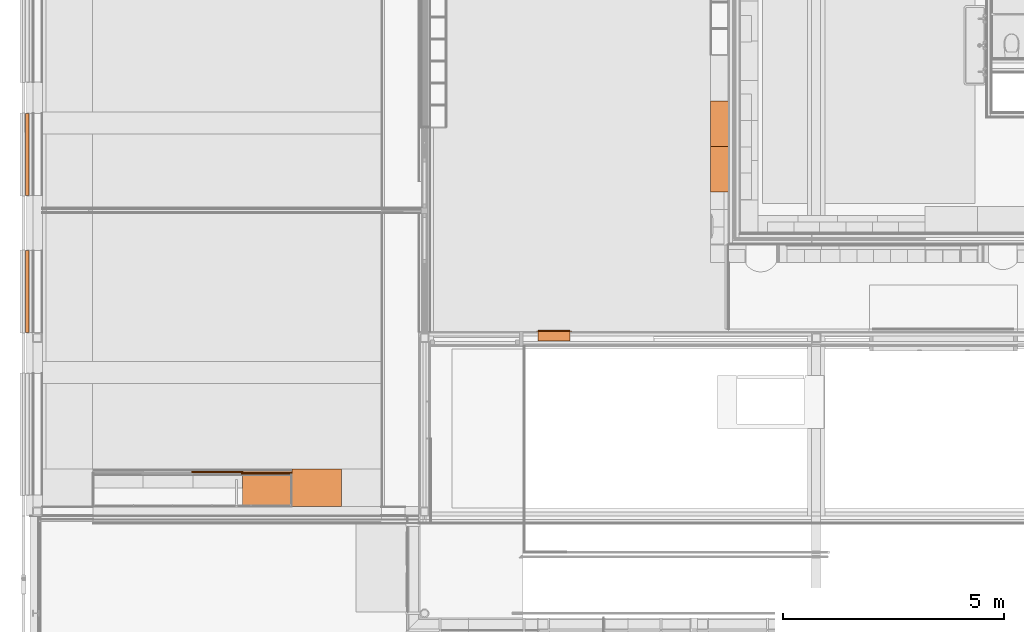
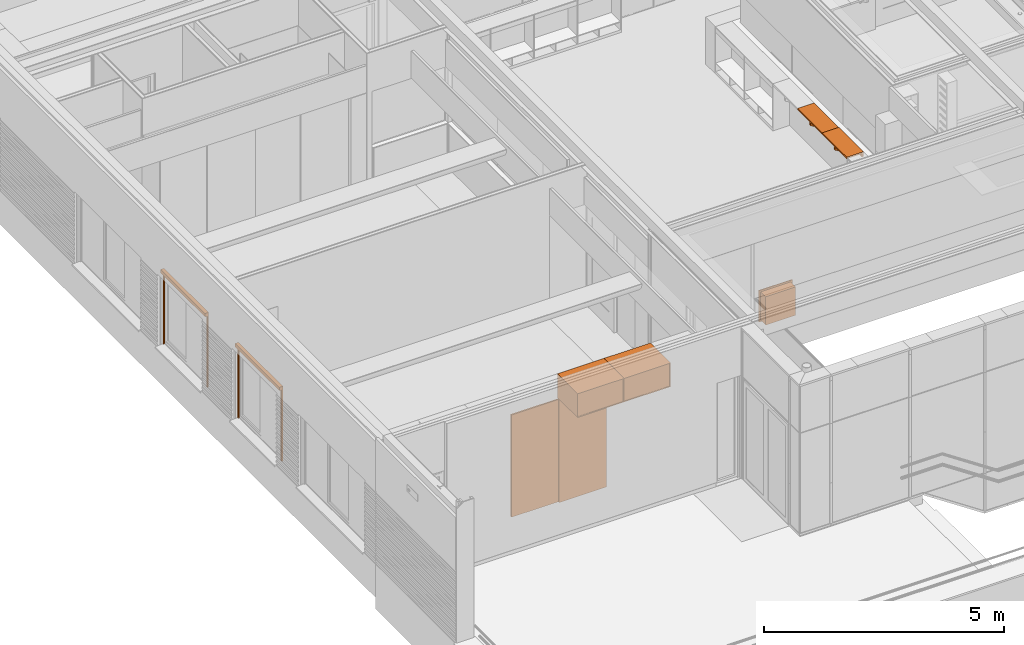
# One storey, part 115 of 137: 9 proxies.
"""IFC2X3 building model written with IfcOpenShell, lengths in millimetres."""

from ifc_helpers import new_model, entity, si_unit, converted_unit, derived_unit, money_unit, direction, frame, origin_with_axes, place, context, subcontext, project, spatial, open_shell, faceted_brep, surface_model, source, transform, mapped, type_object, type_shapes, element, save


model = new_model("IFC2X3")

# Units and contexts
model_context = context("Model", 3, precision=0.01, world=origin_with_axes(), true_north=direction((0.0, 1.0)))
body_context = subcontext(model_context, "Body", "Model", "MODEL_VIEW")
ifc_project = project(units=[si_unit("LENGTHUNIT", "METRE", prefix="MILLI"), si_unit("AREAUNIT", "SQUARE_METRE"), si_unit("VOLUMEUNIT", "CUBIC_METRE"), converted_unit("PLANEANGLEUNIT", "DEGREE", entity("IfcPlaneAngleMeasure", 0.0174532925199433), si_unit("PLANEANGLEUNIT", "RADIAN"), dimensions=[0, 0, 0, 0, 0, 0, 0]), money_unit("EUR"), converted_unit("TIMEUNIT", "Year", entity("IfcTimeMeasure", 31556926.0), si_unit("TIMEUNIT", "SECOND"), dimensions=[0, 0, 1, 0, 0, 0, 0]), si_unit("MASSUNIT", "GRAM", prefix="KILO"), si_unit("THERMODYNAMICTEMPERATUREUNIT", "DEGREE_CELSIUS"), si_unit("LUMINOUSINTENSITYUNIT", "LUMEN"), si_unit("ENERGYUNIT", "JOULE", prefix="MEGA"), derived_unit("THERMALCONDUCTANCEUNIT", [(si_unit("POWERUNIT", "WATT"), 1), (si_unit("LENGTHUNIT", "METRE"), -1), (si_unit("THERMODYNAMICTEMPERATUREUNIT", "KELVIN"), -1)]), derived_unit("SPECIFICHEATCAPACITYUNIT", [(si_unit("ENERGYUNIT", "JOULE"), 1), (si_unit("MASSUNIT", "GRAM", prefix="KILO"), -1), (si_unit("THERMODYNAMICTEMPERATUREUNIT", "KELVIN"), -1)]), derived_unit("MASSDENSITYUNIT", [(si_unit("MASSUNIT", "GRAM", prefix="KILO"), 1), (si_unit("VOLUMEUNIT", "CUBIC_METRE"), -1)])], contexts=[model_context])

# Site, building, storey
site_placement = place(None, origin_with_axes())
site = spatial("IfcSite", under=ifc_project, at=site_placement, Name="Site", CompositionType="ELEMENT")
building_placement = place(site_placement, origin_with_axes())
building = spatial("IfcBuilding", under=site, at=building_placement, Name="Naam gebouw", CompositionType="ELEMENT")
storey_placement = place(building_placement, frame((0.0, 0.0, 3960.0), z_axis=(0.0, 0.0, 1.0), x_axis=(1.0, 0.0, 0.0)))
storey = spatial("IfcBuildingStorey", under=building, at=storey_placement, Name="1e verdieping", CompositionType="ELEMENT", Elevation=3960.0)

# Proxies
building_element_proxy_type_1 = type_object("IfcBuildingElementProxyType", Name="Brandslang haspelkast 26", PredefinedType="NOTDEFINED")
shared_shape_1 = source(origin_with_axes(), body_context, "Body", "Brep", [
    faceted_brep([(0.0, 40.00000000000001, 0.0), (0.0, 20.00000000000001, 0.0), (-800.0, 20.00000000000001, 0.0), (-800.0, 40.00000000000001, 0.0), (0.0, 40.00000000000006, 800.0), (0.0, 20.00000000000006, 800.0), (-800.0, 20.00000000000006, 800.0), (-60.0, 20.00000000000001, 60.00000000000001), (-740.0, 20.00000000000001, 60.00000000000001), (-740.0, 20.00000000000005, 740.0), (-60.0, 20.00000000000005, 740.0), (-800.0, 40.00000000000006, 800.0), (-60.0, 40.00000000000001, 60.00000000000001), (-60.0, 40.00000000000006, 740.0), (-740.0, 40.00000000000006, 740.0), (-740.0, 40.00000000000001, 60.00000000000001)], [[[0, 1, 2, 3]], [[4, 5, 1, 0]], [[1, 5, 6, 2], [7, 8, 9, 10]], [[3, 2, 6, 11]], [[0, 3, 11, 4], [12, 13, 14, 15]], [[11, 6, 5, 4]], [[15, 8, 7, 12]], [[14, 9, 8, 15]], [[13, 10, 9, 14]], [[12, 7, 10, 13]]]),
    faceted_brep([(-39.99999999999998, 20.00000000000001, 40.00000000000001), (-39.99999999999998, 0.0, 40.00000000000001), (-760.0, 0.0, 40.00000000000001), (-760.0, 20.00000000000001, 40.00000000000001), (-39.99999999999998, 20.00000000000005, 760.0), (-39.99999999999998, 0.0, 760.0), (-760.0, 0.0, 760.0), (-80.00000000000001, 0.0, 80.0), (-720.0, 0.0, 80.0), (-720.0, 0.0, 720.0000000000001), (-80.00000000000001, 0.0, 720.0000000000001), (-760.0, 20.00000000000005, 760.0), (-80.00000000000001, 20.00000000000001, 80.0), (-80.00000000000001, 20.00000000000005, 720.0000000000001), (-720.0, 20.00000000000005, 720.0000000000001), (-720.0, 20.00000000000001, 80.0)], [[[0, 1, 2, 3]], [[4, 5, 1, 0]], [[1, 5, 6, 2], [7, 8, 9, 10]], [[3, 2, 6, 11]], [[0, 3, 11, 4], [12, 13, 14, 15]], [[11, 6, 5, 4]], [[15, 8, 7, 12]], [[14, 9, 8, 15]], [[13, 10, 9, 14]], [[12, 7, 10, 13]]]),
    faceted_brep([(-39.99999999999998, 230.0, 39.99999999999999), (-39.99999999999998, 39.99999999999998, 40.00000000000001), (-760.0, 39.99999999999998, 40.00000000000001), (-760.0, 230.0, 39.99999999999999), (-39.99999999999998, 230.0, 760.0), (-39.99999999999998, 40.00000000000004, 760.0), (-760.0, 40.00000000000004, 760.0), (-60.0, 39.99999999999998, 60.00000000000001), (-740.0, 39.99999999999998, 60.00000000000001), (-740.0, 40.00000000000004, 740.0), (-60.0, 40.00000000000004, 740.0), (-760.0, 230.0, 760.0), (-60.0, 230.0, 59.99999999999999), (-60.0, 230.0, 740.0), (-740.0, 230.0, 740.0), (-740.0, 230.0, 59.99999999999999)], [[[0, 1, 2, 3]], [[4, 5, 1, 0]], [[1, 5, 6, 2], [7, 8, 9, 10]], [[3, 2, 6, 11]], [[0, 3, 11, 4], [12, 13, 14, 15]], [[11, 6, 5, 4]], [[15, 8, 7, 12]], [[14, 9, 8, 15]], [[13, 10, 9, 14]], [[12, 7, 10, 13]]]),
    faceted_brep([(-39.99999999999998, 250.0, 39.99999999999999), (-39.99999999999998, 230.0, 39.99999999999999), (-760.0, 230.0, 39.99999999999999), (-760.0, 250.0, 39.99999999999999), (-39.99999999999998, 250.0000000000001, 760.0), (-39.99999999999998, 230.0, 760.0), (-760.0, 230.0, 760.0), (-760.0, 250.0000000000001, 760.0)], [[[0, 1, 2, 3]], [[4, 5, 1, 0]], [[1, 5, 6, 2]], [[3, 2, 6, 7]], [[0, 3, 7, 4]], [[7, 6, 5, 4]]]),
    faceted_brep([(-80.00000000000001, 15.00000000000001, 80.0), (-80.00000000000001, 5.000000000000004, 80.0), (-720.0, 5.000000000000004, 80.0), (-720.0, 15.00000000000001, 80.0), (-80.00000000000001, 15.00000000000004, 720.0000000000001), (-80.00000000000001, 5.000000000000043, 720.0000000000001), (-720.0, 5.000000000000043, 720.0000000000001), (-720.0, 15.00000000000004, 720.0000000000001)], [[[0, 1, 2, 3]], [[4, 5, 1, 0]], [[1, 5, 6, 2]], [[3, 2, 6, 7]], [[0, 3, 7, 4]], [[7, 6, 5, 4]]]),
    faceted_brep([(-749.6592582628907, 0.0, 397.4118095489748), (-750.0, 0.0, 400.0), (-749.6592582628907, 0.0, 402.5881904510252), (-748.6602540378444, 0.0, 405.0), (-747.0710678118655, 0.0, 407.0710678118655), (-745.0, 0.0, 408.6602540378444), (-742.5881904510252, 0.0, 409.6592582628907), (-740.0, 0.0, 410.0000000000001), (-737.4118095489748, 0.0, 409.6592582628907), (-735.0, 0.0, 408.6602540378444), (-732.9289321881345, 0.0, 407.0710678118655), (-731.3397459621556, 0.0, 405.0), (-730.3407417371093, 0.0, 402.5881904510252), (-730.0, 0.0, 400.0), (-730.3407417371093, 0.0, 397.4118095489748), (-731.3397459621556, 0.0, 395.0), (-732.9289321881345, 0.0, 392.9289321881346), (-735.0, 0.0, 391.3397459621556), (-737.4118095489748, 0.0, 390.3407417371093), (-740.0, 0.0, 390.0), (-742.5881904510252, 0.0, 390.3407417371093), (-745.0, 0.0, 391.3397459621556), (-747.0710678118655, 0.0, 392.9289321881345), (-748.6602540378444, 0.0, 395.0), (-749.6592582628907, -1.999999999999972, 397.4118095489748), (-750.0, -1.999999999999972, 400.0), (-749.6592582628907, -1.999999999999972, 402.5881904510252), (-748.6602540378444, -1.999999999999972, 405.0), (-747.0710678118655, -1.999999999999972, 407.0710678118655), (-745.0, -1.999999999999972, 408.6602540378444), (-742.5881904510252, -1.999999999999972, 409.6592582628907), (-740.0, -1.999999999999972, 410.0000000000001), (-737.4118095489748, -1.999999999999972, 409.6592582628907), (-735.0, -1.999999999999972, 408.6602540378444), (-732.9289321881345, -1.999999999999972, 407.0710678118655), (-731.3397459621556, -1.999999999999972, 405.0), (-730.3407417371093, -1.999999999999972, 402.5881904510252), (-730.0, -1.999999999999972, 400.0), (-730.3407417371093, -1.999999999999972, 397.4118095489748), (-731.3397459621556, -1.999999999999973, 395.0), (-732.9289321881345, -1.999999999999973, 392.9289321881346), (-735.0, -1.999999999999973, 391.3397459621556), (-737.4118095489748, -1.999999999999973, 390.3407417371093), (-740.0, -1.999999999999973, 390.0), (-742.5881904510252, -1.999999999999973, 390.3407417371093), (-745.0, -1.999999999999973, 391.3397459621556), (-747.0710678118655, -1.999999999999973, 392.9289321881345), (-748.6602540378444, -1.999999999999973, 395.0)], [[[0, 1, 2, 3, 4, 5, 6, 7, 8, 9, 10, 11, 12, 13, 14, 15, 16, 17, 18, 19, 20, 21, 22, 23]], [[0, 24, 25, 1]], [[1, 25, 26, 2]], [[2, 26, 27, 3]], [[3, 27, 28, 4]], [[4, 28, 29, 5]], [[5, 29, 30, 6]], [[6, 30, 31, 7]], [[7, 31, 32, 8]], [[8, 32, 33, 9]], [[9, 33, 34, 10]], [[10, 34, 35, 11]], [[11, 35, 36, 12]], [[12, 36, 37, 13]], [[13, 37, 38, 14]], [[14, 38, 39, 15]], [[15, 39, 40, 16]], [[16, 40, 41, 17]], [[17, 41, 42, 18]], [[18, 42, 43, 19]], [[19, 43, 44, 20]], [[20, 44, 45, 21]], [[21, 45, 46, 22]], [[22, 46, 47, 23]], [[23, 47, 24, 0]], [[24, 47, 46, 45, 44, 43, 42, 41, 40, 39, 38, 37, 36, 35, 34, 33, 32, 31, 30, 29, 28, 27, 26, 25]]]),
    faceted_brep([(-39.89777747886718, 16.22354286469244, 80.0), (-39.99999999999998, 17.0, 80.0), (-39.89777747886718, 17.77645713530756, 80.0), (-39.59807621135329, 18.5, 80.0), (-39.12132034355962, 19.12132034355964, 80.0), (-38.49999999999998, 19.59807621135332, 80.0), (-37.77645713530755, 19.89777747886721, 80.0), (-36.99999999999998, 20.0, 80.0), (-36.22354286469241, 19.89777747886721, 80.0), (-35.49999999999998, 19.59807621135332, 80.0), (-34.87867965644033, 19.12132034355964, 80.0), (-34.40192378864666, 18.5, 80.0), (-34.10222252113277, 17.77645713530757, 80.0), (-33.99999999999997, 17.0, 80.0), (-34.10222252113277, 16.22354286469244, 80.0), (-34.40192378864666, 15.5, 80.0), (-34.87867965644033, 14.87867965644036, 80.0), (-35.49999999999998, 14.40192378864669, 80.0), (-36.22354286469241, 14.1022225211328, 80.0), (-36.99999999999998, 14.0, 80.0), (-37.77645713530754, 14.10222252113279, 80.0), (-38.49999999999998, 14.40192378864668, 80.0), (-39.12132034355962, 14.87867965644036, 80.0), (-39.59807621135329, 15.5, 80.0), (-39.89777747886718, 16.22354286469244, 120.0), (-39.99999999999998, 17.0, 120.0), (-39.89777747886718, 17.77645713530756, 120.0), (-39.59807621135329, 18.5, 120.0), (-39.12132034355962, 19.12132034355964, 120.0), (-38.49999999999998, 19.59807621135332, 120.0), (-37.77645713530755, 19.89777747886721, 120.0), (-36.99999999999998, 20.0, 120.0), (-36.22354286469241, 19.89777747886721, 120.0), (-35.49999999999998, 19.59807621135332, 120.0), (-34.87867965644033, 19.12132034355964, 120.0), (-34.40192378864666, 18.5, 120.0), (-34.10222252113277, 17.77645713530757, 120.0), (-33.99999999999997, 17.0, 120.0), (-34.10222252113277, 16.22354286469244, 120.0), (-34.40192378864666, 15.5, 120.0), (-34.87867965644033, 14.87867965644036, 120.0), (-35.49999999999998, 14.40192378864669, 120.0), (-36.22354286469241, 14.1022225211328, 120.0), (-36.99999999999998, 14.0, 120.0), (-37.77645713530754, 14.10222252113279, 120.0), (-38.49999999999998, 14.40192378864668, 120.0), (-39.12132034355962, 14.87867965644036, 120.0), (-39.59807621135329, 15.5, 120.0)], [[[0, 1, 2, 3, 4, 5, 6, 7, 8, 9, 10, 11, 12, 13, 14, 15, 16, 17, 18, 19, 20, 21, 22, 23]], [[0, 24, 25, 1]], [[1, 25, 26, 2]], [[2, 26, 27, 3]], [[3, 27, 28, 4]], [[4, 28, 29, 5]], [[5, 29, 30, 6]], [[6, 30, 31, 7]], [[7, 31, 32, 8]], [[8, 32, 33, 9]], [[9, 33, 34, 10]], [[10, 34, 35, 11]], [[11, 35, 36, 12]], [[12, 36, 37, 13]], [[13, 37, 38, 14]], [[14, 38, 39, 15]], [[15, 39, 40, 16]], [[16, 40, 41, 17]], [[17, 41, 42, 18]], [[18, 42, 43, 19]], [[19, 43, 44, 20]], [[20, 44, 45, 21]], [[21, 45, 46, 22]], [[22, 46, 47, 23]], [[23, 47, 24, 0]], [[24, 47, 46, 45, 44, 43, 42, 41, 40, 39, 38, 37, 36, 35, 34, 33, 32, 31, 30, 29, 28, 27, 26, 25]]]),
    faceted_brep([(-39.89777747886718, 16.22354286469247, 680.0), (-39.99999999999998, 17.00000000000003, 680.0), (-39.89777747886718, 17.77645713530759, 680.0), (-39.59807621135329, 18.50000000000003, 680.0), (-39.12132034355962, 19.12132034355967, 680.0), (-38.49999999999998, 19.59807621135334, 680.0), (-37.77645713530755, 19.89777747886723, 680.0), (-36.99999999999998, 20.00000000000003, 680.0), (-36.22354286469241, 19.89777747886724, 680.0), (-35.49999999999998, 19.59807621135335, 680.0), (-34.87867965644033, 19.12132034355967, 680.0), (-34.40192378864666, 18.50000000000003, 680.0), (-34.10222252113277, 17.7764571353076, 680.0), (-33.99999999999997, 17.00000000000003, 680.0), (-34.10222252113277, 16.22354286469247, 680.0), (-34.40192378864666, 15.50000000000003, 680.0), (-34.87867965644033, 14.87867965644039, 680.0), (-35.49999999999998, 14.40192378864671, 680.0), (-36.22354286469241, 14.10222252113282, 680.0), (-36.99999999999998, 14.00000000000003, 680.0), (-37.77645713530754, 14.10222252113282, 680.0), (-38.49999999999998, 14.40192378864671, 680.0), (-39.12132034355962, 14.87867965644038, 680.0), (-39.59807621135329, 15.50000000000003, 680.0), (-39.89777747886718, 16.22354286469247, 720.0000000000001), (-39.99999999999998, 17.00000000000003, 720.0000000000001), (-39.89777747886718, 17.77645713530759, 720.0000000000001), (-39.59807621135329, 18.50000000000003, 720.0000000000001), (-39.12132034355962, 19.12132034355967, 720.0000000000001), (-38.49999999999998, 19.59807621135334, 720.0000000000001), (-37.77645713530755, 19.89777747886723, 720.0000000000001), (-36.99999999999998, 20.00000000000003, 720.0000000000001), (-36.22354286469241, 19.89777747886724, 720.0000000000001), (-35.49999999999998, 19.59807621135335, 720.0000000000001), (-34.87867965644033, 19.12132034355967, 720.0000000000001), (-34.40192378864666, 18.50000000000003, 720.0000000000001), (-34.10222252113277, 17.7764571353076, 720.0000000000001), (-33.99999999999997, 17.00000000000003, 720.0000000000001), (-34.10222252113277, 16.22354286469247, 720.0000000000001), (-34.40192378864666, 15.50000000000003, 720.0000000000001), (-34.87867965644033, 14.87867965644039, 720.0000000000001), (-35.49999999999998, 14.40192378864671, 720.0000000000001), (-36.22354286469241, 14.10222252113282, 720.0000000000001), (-36.99999999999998, 14.00000000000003, 720.0000000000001), (-37.77645713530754, 14.10222252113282, 720.0000000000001), (-38.49999999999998, 14.40192378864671, 720.0000000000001), (-39.12132034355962, 14.87867965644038, 720.0000000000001), (-39.59807621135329, 15.50000000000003, 720.0000000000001)], [[[0, 1, 2, 3, 4, 5, 6, 7, 8, 9, 10, 11, 12, 13, 14, 15, 16, 17, 18, 19, 20, 21, 22, 23]], [[0, 24, 25, 1]], [[1, 25, 26, 2]], [[2, 26, 27, 3]], [[3, 27, 28, 4]], [[4, 28, 29, 5]], [[5, 29, 30, 6]], [[6, 30, 31, 7]], [[7, 31, 32, 8]], [[8, 32, 33, 9]], [[9, 33, 34, 10]], [[10, 34, 35, 11]], [[11, 35, 36, 12]], [[12, 36, 37, 13]], [[13, 37, 38, 14]], [[14, 38, 39, 15]], [[15, 39, 40, 16]], [[16, 40, 41, 17]], [[17, 41, 42, 18]], [[18, 42, 43, 19]], [[19, 43, 44, 20]], [[20, 44, 45, 21]], [[21, 45, 46, 22]], [[22, 46, 47, 23]], [[23, 47, 24, 0]], [[24, 47, 46, 45, 44, 43, 42, 41, 40, 39, 38, 37, 36, 35, 34, 33, 32, 31, 30, 29, 28, 27, 26, 25]]]),
])
type_shapes(building_element_proxy_type_1, [shared_shape_1])
proxy_1_placement = place(storey_placement, frame((11380.04559255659, 10985.00011055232, 299.9999999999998), z_axis=(0.0, 0.0, 1.0), x_axis=(-1.0, 0.0, 0.0)))
element("IfcBuildingElementProxy", 1, at=proxy_1_placement, inside=storey, type_object=building_element_proxy_type_1, Name="_object-x", context=body_context, shape_type="MappedRepresentation", body=[
    mapped(shared_shape_1, transform((0.0, 0.0, 0.0))),
])
building_element_proxy_type_2 = type_object("IfcBuildingElementProxyType", Name="gevelbekleding", PredefinedType="NOTDEFINED")
shared_shape_2 = source(origin_with_axes(), body_context, "Body", "Brep", [
    faceted_brep([(577.5, 0.0, 0.0), (577.5, -35.0, 0.0), (572.5, -35.0, 0.0), (572.5, 0.0, 0.0), (577.5, 0.0, 2600.0), (577.5, -35.0, 2600.0), (572.5, -35.0, 2600.0), (572.5, 0.0, 2600.0)], [[[0, 1, 2, 3]], [[4, 5, 1, 0]], [[1, 5, 6, 2]], [[3, 2, 6, 7]], [[0, 3, 7, 4]], [[7, 6, 5, 4]]]),
    faceted_brep([(-577.5, 0.0, 0.0), (-577.5, -35.0, 0.0), (-577.5, -35.0, 2600.0), (-577.5, 0.0, 2600.0), (-572.5000000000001, 0.0, 0.0), (-572.5000000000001, -35.0, 0.0), (-572.5000000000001, -35.0, 2600.0), (-572.5000000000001, 0.0, 2600.0)], [[[0, 1, 2, 3]], [[4, 5, 1, 0]], [[1, 5, 6, 2]], [[3, 2, 6, 7]], [[0, 3, 7, 4]], [[7, 6, 5, 4]]]),
    faceted_brep([(577.5, 0.0, 0.0), (577.5, -35.0, 0.0), (-577.5, -35.0, 0.0), (-577.5, 0.0, 0.0), (577.5, 0.0, 2600.0), (577.5, -35.0, 2600.0), (-577.5, -35.0, 2600.0), (-577.5, 0.0, 2600.0)], [[[0, 1, 2, 3]], [[4, 5, 1, 0]], [[1, 5, 6, 2]], [[3, 2, 6, 7]], [[0, 3, 7, 4]], [[7, 6, 5, 4]]]),
])
proxy_2_placement = place(storey_placement, frame((3588.999928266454, 7793.999661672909, 0.0), z_axis=(0.0, 0.0, 1.0), x_axis=(1.0, 0.0, 0.0)))
element("IfcBuildingElementProxy", 2, at=proxy_2_placement, inside=storey, type_object=building_element_proxy_type_2, Name="_-", context=body_context, shape_type="MappedRepresentation", body=[
    mapped(shared_shape_2, transform((577.4999999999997, 0.0, 0.0))),
])
shared_shape_3 = source(origin_with_axes(), body_context, "Body", "Brep", [
    faceted_brep([(-570.0, 0.0, 0.0), (-565.0, 0.0, 0.0), (-565.0, -35.0, 0.0), (-570.0, -35.0, 0.0), (-570.0, 0.0, 2600.0), (-565.0, 0.0, 2600.0), (-565.0, -35.0, 2600.0), (-570.0, -35.0, 2600.0)], [[[0, 1, 2, 3]], [[0, 4, 5, 1]], [[1, 5, 6, 2]], [[3, 2, 6, 7]], [[4, 0, 3, 7]], [[5, 4, 7, 6]]]),
    faceted_brep([(570.0, 0.0, 0.0), (570.0, 0.0, 2600.0), (570.0, -35.0, 2600.0), (570.0, -35.0, 0.0), (565.0000000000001, 0.0, 0.0), (565.0000000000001, 0.0, 2600.0), (565.0000000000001, -35.0, 2600.0), (565.0000000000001, -35.0, 0.0)], [[[0, 1, 2, 3]], [[0, 4, 5, 1]], [[1, 5, 6, 2]], [[3, 2, 6, 7]], [[4, 0, 3, 7]], [[5, 4, 7, 6]]]),
    faceted_brep([(-570.0, 0.0, 0.0), (570.0, 0.0, 0.0), (570.0, -35.0, 0.0), (-570.0, -35.0, 0.0), (-570.0, 0.0, 2600.0), (570.0, 0.0, 2600.0), (570.0, -35.0, 2600.0), (-570.0, -35.0, 2600.0)], [[[0, 1, 2, 3]], [[0, 4, 5, 1]], [[1, 5, 6, 2]], [[3, 2, 6, 7]], [[4, 0, 3, 7]], [[5, 4, 7, 6]]]),
])
type_shapes(building_element_proxy_type_2, [shared_shape_2, shared_shape_3])
proxy_3_placement = place(storey_placement, frame((4713.999998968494, 7793.99966167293, 0.0), z_axis=(0.0, 0.0, 1.0), x_axis=(1.0, 0.0, 0.0)))
element("IfcBuildingElementProxy", 3, at=proxy_3_placement, inside=storey, type_object=building_element_proxy_type_2, Name="_-", context=body_context, shape_type="MappedRepresentation", body=[
    mapped(shared_shape_3, transform((570.0000000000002, -34.99999999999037, 0.0))),
])
building_element_proxy_type_3 = type_object("IfcBuildingElementProxyType", Name="Onderkast recht 26", PredefinedType="NOTDEFINED")
shared_shape_4 = source(origin_with_axes(), body_context, "Body", "Brep", [
    faceted_brep([(-1.0, -827.0, 1.0), (-1.0, -845.0, 1.000000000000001), (-1119.000141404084, -845.0, 1.000000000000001), (-1119.000141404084, -827.0, 1.0), (-1.0, -827.0, 599.0), (-1.0, -845.0, 599.0), (-1119.000141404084, -845.0, 599.0), (-1119.000141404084, -827.0, 599.0)], [[[0, 1, 2, 3]], [[4, 5, 1, 0]], [[1, 5, 6, 2]], [[3, 2, 6, 7]], [[0, 3, 7, 4]], [[7, 6, 5, 4]]]),
    faceted_brep([(-18.0, -827.0, 0.0), (-18.0, -827.0, 18.0), (-1102.000141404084, -827.0, 18.0), (-1102.000141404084, -827.0, 0.0), (-18.0, 0.0, 0.0), (-18.0, 0.0, 18.0), (-1102.000141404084, 0.0, 18.0), (-1102.000141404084, 0.0, 0.0)], [[[0, 1, 2, 3]], [[4, 5, 1, 0]], [[1, 5, 6, 2]], [[3, 2, 6, 7]], [[0, 3, 7, 4]], [[7, 6, 5, 4]]]),
    faceted_brep([(-18.0, -827.0, 582.0), (-18.0, -827.0, 600.0), (-1102.000141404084, -827.0, 600.0), (-1102.000141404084, -827.0, 582.0), (-18.0, 0.0, 582.0), (-18.0, 0.0, 600.0), (-1102.000141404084, 0.0, 600.0), (-1102.000141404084, 0.0, 582.0)], [[[0, 1, 2, 3]], [[4, 5, 1, 0]], [[1, 5, 6, 2]], [[3, 2, 6, 7]], [[0, 3, 7, 4]], [[7, 6, 5, 4]]]),
    faceted_brep([(0.0, 0.0, 0.0), (0.0, 0.0, 600.0), (0.0, -827.0, 600.0), (0.0, -827.0, 0.0), (-18.0, 0.0, 0.0), (-18.0, 0.0, 600.0), (-18.0, -827.0, 600.0), (-18.0, -827.0, 0.0)], [[[0, 1, 2, 3]], [[4, 5, 1, 0]], [[1, 5, 6, 2]], [[3, 2, 6, 7]], [[0, 3, 7, 4]], [[7, 6, 5, 4]]]),
    faceted_brep([(-1120.000141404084, -827.0, 0.0), (-1120.000141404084, -827.0, 600.0), (-1120.000141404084, 0.0, 600.0), (-1120.000141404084, 0.0, 0.0), (-1102.000141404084, -827.0, 0.0), (-1102.000141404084, -827.0, 600.0), (-1102.000141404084, 0.0, 600.0), (-1102.000141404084, 0.0, 0.0)], [[[0, 1, 2, 3]], [[4, 5, 1, 0]], [[1, 5, 6, 2]], [[3, 2, 6, 7]], [[0, 3, 7, 4]], [[7, 6, 5, 4]]]),
    faceted_brep([(-1102.000141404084, -9.0, 18.0), (-1102.000141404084, -9.0, 582.0), (-18.00000000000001, -9.0, 582.0), (-18.00000000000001, -9.0, 18.0), (-1102.000141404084, -18.0, 18.0), (-1102.000141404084, -18.0, 582.0), (-18.00000000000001, -18.0, 582.0), (-18.00000000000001, -18.0, 18.0)], [[[0, 1, 2, 3]], [[4, 5, 1, 0]], [[1, 5, 6, 2]], [[3, 2, 6, 7]], [[0, 3, 7, 4]], [[7, 6, 5, 4]]]),
])
type_shapes(building_element_proxy_type_3, [shared_shape_4])
for number, where, z_axis, x_axis in (
    (4, (5854.000565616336, 6993.999661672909, 2600.0), (0.0, 0.0, 1.0), (-1.0, 0.0, 0.0)),
    (5, (4734.000424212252, 6993.999661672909, 2600.0), (0.0, 0.0, 1.0), (-1.0, 0.0, 0.0)),
):
    element("IfcBuildingElementProxy", number, at=place(storey_placement, frame(where, z_axis=z_axis, x_axis=x_axis)), inside=storey, type_object=building_element_proxy_type_3, Name="_Leeg", context=body_context, shape_type="MappedRepresentation", body=[
        mapped(shared_shape_4, transform((0.0, 0.0, 0.0))),
    ])
building_element_proxy_type_4 = type_object("IfcBuildingElementProxyType", Name="Screen 26 KM", PredefinedType="NOTDEFINED")
shared_shape_5 = source(origin_with_axes(), body_context, "Body", "SurfaceModel", [
    faceted_brep([(0.0, 0.0, 0.0), (0.0, -30.0, 0.0), (0.0, -30.0, 1815.0), (0.0, 0.0, 1815.0), (40.0, 0.0, 0.0), (40.0, -4.999999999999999, 0.0), (37.0, -4.999999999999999, 0.0), (37.0, -3.0, 0.0), (3.0, -3.0, 0.0), (3.0, -27.0, 0.0), (37.0, -27.0, 0.0), (37.0, -25.0, 0.0), (40.0, -25.0, 0.0), (40.0, -30.0, 0.0), (40.0, -30.0, 1815.0), (40.0, -25.0, 1815.0), (37.0, -25.0, 1815.0), (37.0, -27.0, 1815.0), (3.0, -27.0, 1815.0), (3.0, -3.0, 1815.0), (37.0, -3.0, 1815.0), (37.0, -4.999999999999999, 1815.0), (40.0, -4.999999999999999, 1815.0), (40.0, 0.0, 1815.0)], [[[0, 1, 2, 3]], [[0, 4, 5, 6, 7, 8, 9, 10, 11, 12, 13, 1]], [[1, 13, 14, 2]], [[3, 2, 14, 15, 16, 17, 18, 19, 20, 21, 22, 23]], [[4, 0, 3, 23]], [[5, 4, 23, 22]], [[6, 5, 22, 21]], [[7, 6, 21, 20]], [[8, 7, 20, 19]], [[9, 8, 19, 18]], [[10, 9, 18, 17]], [[11, 10, 17, 16]], [[12, 11, 16, 15]], [[13, 12, 15, 14]]]),
    faceted_brep([(1850.0, 0.0, 0.0), (1850.0, 0.0, 1815.0), (1850.0, -30.0, 1815.0), (1850.0, -30.0, 0.0), (1810.0, 0.0, 0.0), (1810.0, 0.0, 1815.0), (1810.0, -4.999999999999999, 1815.0), (1813.0, -4.999999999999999, 1815.0), (1813.0, -3.0, 1815.0), (1847.0, -3.0, 1815.0), (1847.0, -27.0, 1815.0), (1813.0, -27.0, 1815.0), (1813.0, -25.0, 1815.0), (1810.0, -25.0, 1815.0), (1810.0, -30.0, 1815.0), (1810.0, -30.0, 0.0), (1810.0, -25.0, 0.0), (1813.0, -25.0, 0.0), (1813.0, -27.0, 0.0), (1847.0, -27.0, 0.0), (1847.0, -3.0, 0.0), (1813.0, -3.0, 0.0), (1813.0, -4.999999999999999, 0.0), (1810.0, -4.999999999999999, 0.0)], [[[0, 1, 2, 3]], [[4, 5, 1, 0]], [[1, 5, 6, 7, 8, 9, 10, 11, 12, 13, 14, 2]], [[3, 2, 14, 15]], [[0, 3, 15, 16, 17, 18, 19, 20, 21, 22, 23, 4]], [[23, 6, 5, 4]], [[22, 7, 6, 23]], [[21, 8, 7, 22]], [[20, 9, 8, 21]], [[19, 10, 9, 20]], [[18, 11, 10, 19]], [[17, 12, 11, 18]], [[16, 13, 12, 17]], [[15, 14, 13, 16]]]),
    surface_model("IfcShellBasedSurfaceModel", [(0.0, 0.0, 1900.0), (0.0, 0.0, 1815.0), (0.0, -85.0, 1815.0), (0.0, -85.0, 1900.0)], [open_shell([[[0, 1, 2, 3]]])]),
    surface_model("IfcShellBasedSurfaceModel", [(0.01, 0.0, 1900.0), (0.009999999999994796, -85.0, 1900.0), (1849.99, -85.00000000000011, 1900.0), (1849.99, 0.0, 1900.0), (0.01000000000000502, 0.0, 1818.0), (0.01000000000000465, -6.0, 1818.0), (0.01000000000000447, -6.0, 1821.0), (0.01000000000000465, -3.0, 1821.0), (0.01, -3.0, 1897.0), (0.009999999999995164, -82.0, 1897.0), (0.01, -82.0, 1818.0), (0.01000000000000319, -30.0, 1818.0), (0.01000000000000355, -30.0, 1812.0), (0.01000000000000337, -33.0, 1812.0), (0.01000000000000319, -33.0, 1815.0), (0.01, -85.0, 1815.0), (1849.99, -85.00000000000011, 1815.0), (1849.99, -33.00000000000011, 1815.0), (1849.99, -33.00000000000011, 1812.0), (1849.99, -30.00000000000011, 1812.0), (1849.99, -30.00000000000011, 1818.0), (1849.99, -82.00000000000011, 1818.0), (1849.99, -82.00000000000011, 1897.0), (1849.99, -3.000000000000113, 1897.0), (1849.99, -3.000000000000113, 1821.0), (1849.99, -6.000000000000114, 1821.0), (1849.99, -6.000000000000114, 1818.0), (1849.99, 0.0, 1818.0)], [open_shell([[[0, 1, 2, 3]], [[0, 4, 5, 6, 7, 8, 9, 10, 11, 12, 13, 14, 15, 1]], [[1, 15, 16, 2]], [[3, 2, 16, 17, 18, 19, 20, 21, 22, 23, 24, 25, 26, 27]], [[4, 0, 3, 27]], [[13, 12, 19, 18]], [[14, 13, 18, 17]], [[15, 14, 17, 16]]])]),
    surface_model("IfcShellBasedSurfaceModel", [(1849.99, 0.0, 1900.0), (1849.99, 0.0, 1815.0), (1849.99, -85.00000000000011, 1815.0), (1849.99, -85.00000000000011, 1900.0)], [open_shell([[[0, 1, 2, 3]]])]),
])
type_shapes(building_element_proxy_type_4, [shared_shape_5])
for number, where, z_axis, x_axis, name in (
    (6, (-81.99999999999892, 15874.9998112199, 794.9999999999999), (0.0, 0.0, 1.0), (0.0, -1.0, 0.0), "_Object-x"),
    (7, (-81.99999999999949, 12775.00011055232, 794.9999999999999), (0.0, 0.0, 1.0), (0.0, -1.0, 0.0), "_Object-x"),
):
    element("IfcBuildingElementProxy", number, at=place(storey_placement, frame(where, z_axis=z_axis, x_axis=x_axis)), inside=storey, type_object=building_element_proxy_type_4, Name=name, context=body_context, shape_type="MappedRepresentation", body=[
        mapped(shared_shape_5, transform((0.0, 0.0, 0.0))),
    ])
building_element_proxy_type_5 = type_object("IfcBuildingElementProxyType", Name="Klaptafel wand 26", PredefinedType="NOTDEFINED")
shared_shape_6 = source(origin_with_axes(), body_context, "Body", "Brep", [
    faceted_brep([(-532.5, 0.0, 620.0), (-532.5, 360.0000000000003, 620.0), (-492.4999999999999, 360.0000000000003, 620.0), (-492.4999999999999, 0.0, 620.0), (-532.5, 0.0, 700.0), (-532.5, 360.0000000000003, 700.0), (-492.4999999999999, 360.0000000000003, 700.0), (-492.4999999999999, 0.0, 700.0)], [[[0, 1, 2, 3]], [[0, 4, 5, 1]], [[1, 5, 6, 2]], [[2, 6, 7, 3]], [[3, 7, 4, 0]], [[7, 6, 5, 4]]]),
    faceted_brep([(-532.5, 280.0000000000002, 419.9999999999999), (-532.5, 360.0000000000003, 419.9999999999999), (-492.4999999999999, 360.0000000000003, 419.9999999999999), (-492.4999999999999, 280.0000000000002, 419.9999999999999), (-532.5, 280.0000000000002, 620.0), (-532.5, 360.0000000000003, 620.0), (-492.4999999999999, 360.0000000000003, 620.0), (-492.4999999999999, 280.0000000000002, 620.0)], [[[0, 1, 2, 3]], [[0, 4, 5, 1]], [[1, 5, 6, 2]], [[2, 6, 7, 3]], [[3, 7, 4, 0]], [[7, 6, 5, 4]]]),
    faceted_brep([(-492.4999999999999, 0.0, 620.0), (-532.5, 0.0, 620.0), (-532.5, 280.0000000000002, 464.4444444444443), (-492.4999999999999, 280.0000000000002, 464.4444444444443), (-492.4999999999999, 164.730082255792, 620.0), (-532.5, 164.730082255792, 620.0), (-532.5, 280.0000000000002, 555.9611568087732), (-492.4999999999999, 280.0000000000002, 555.9611568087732)], [[[0, 1, 2, 3]], [[4, 5, 1, 0]], [[1, 5, 6, 2]], [[3, 2, 6, 7]], [[0, 3, 7, 4]], [[7, 6, 5, 4]]]),
    faceted_brep([(-1025.0, 0.0, 700.0), (-1025.0, 320.0000000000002, 700.0), (0.0, 320.0000000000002, 700.0), (0.0, 0.0, 700.0), (-1025.0, 0.0, 740.0), (-1025.0, 320.0000000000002, 740.0), (0.0, 320.0000000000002, 740.0), (0.0, 0.0, 740.0)], [[[0, 1, 2, 3]], [[0, 4, 5, 1]], [[1, 5, 6, 2]], [[2, 6, 7, 3]], [[3, 7, 4, 0]], [[7, 6, 5, 4]]]),
    faceted_brep([(-1025.0, 320.0000000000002, 700.0), (-1025.0, 400.0000000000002, 700.0), (0.0, 400.0000000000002, 700.0), (0.0, 320.0000000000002, 700.0), (-1025.0, 320.0000000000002, 740.0), (-1025.0, 400.0000000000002, 740.0), (0.0, 400.0000000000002, 740.0), (0.0, 320.0000000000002, 740.0)], [[[0, 1, 2, 3]], [[0, 4, 5, 1]], [[1, 5, 6, 2]], [[2, 6, 7, 3]], [[3, 7, 4, 0]], [[7, 6, 5, 4]]]),
    faceted_brep([(-1025.0, 360.0000000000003, 620.0), (-1025.0, 400.0000000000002, 620.0), (0.0, 400.0000000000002, 620.0), (0.0, 360.0000000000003, 620.0), (-1025.0, 360.0000000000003, 700.0), (-1025.0, 400.0000000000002, 700.0), (0.0, 400.0000000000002, 700.0), (0.0, 360.0000000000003, 700.0)], [[[0, 1, 2, 3]], [[0, 4, 5, 1]], [[1, 5, 6, 2]], [[2, 6, 7, 3]], [[3, 7, 4, 0]], [[7, 6, 5, 4]]]),
    faceted_brep([(-552.5, 360.0000000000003, 419.9999999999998), (-552.5, 400.0000000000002, 419.9999999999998), (-472.5, 400.0000000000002, 419.9999999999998), (-472.5, 360.0000000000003, 419.9999999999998), (-552.5, 360.0000000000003, 619.9999999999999), (-552.5, 400.0000000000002, 619.9999999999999), (-472.5, 400.0000000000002, 619.9999999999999), (-472.5, 360.0000000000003, 619.9999999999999)], [[[0, 1, 2, 3]], [[0, 4, 5, 1]], [[1, 5, 6, 2]], [[2, 6, 7, 3]], [[3, 7, 4, 0]], [[7, 6, 5, 4]]]),
])
type_shapes(building_element_proxy_type_5, [shared_shape_6])
for number, where, z_axis, x_axis in (
    (8, (15314.99945671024, 14104.9998112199, 459.9999999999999), (0.0, 0.0, 1.0), (0.0, -1.0, 0.0)),
    (9, (15314.99945671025, 15130.00727895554, 459.9999999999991), (0.0, 0.0, 1.0), (0.0, -1.0, 0.0)),
):
    element("IfcBuildingElementProxy", number, at=place(storey_placement, frame(where, z_axis=z_axis, x_axis=x_axis)), inside=storey, type_object=building_element_proxy_type_5, Name="_Leeg", context=body_context, shape_type="MappedRepresentation", body=[
        mapped(shared_shape_6, transform((0.0, 0.0, 0.0))),
    ])

save(model, "model.ifc")
